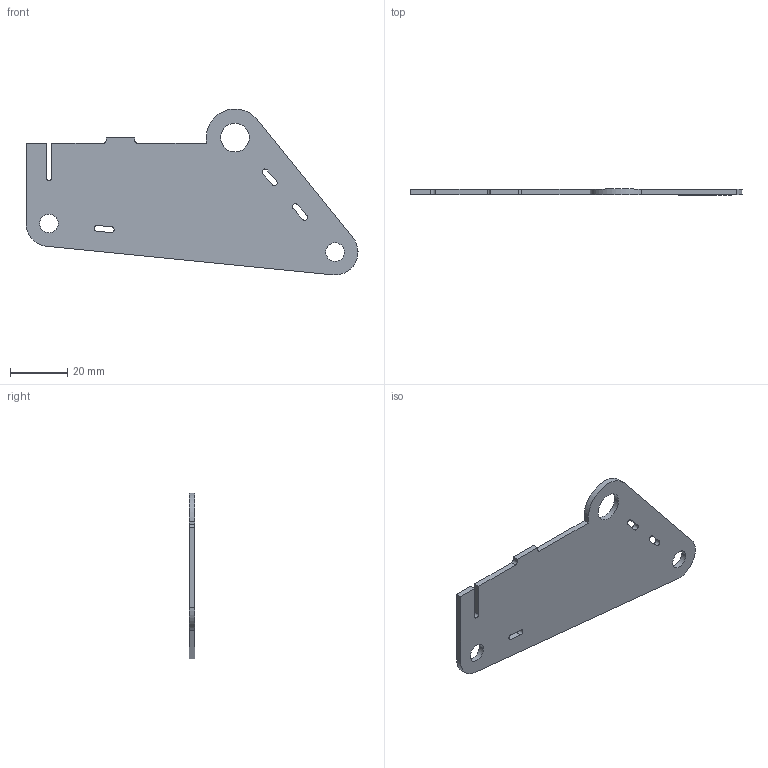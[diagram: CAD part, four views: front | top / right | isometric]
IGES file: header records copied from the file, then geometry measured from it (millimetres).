
Start section: START RECORD GO HERE.
Global section: file name: FR_11001_2 (Frame Throttle).igs; native system: IBM CATIA IGES - CATIA Version 5 Release 19 ; preprocessor: CATIA Version 5 Release 19 ; author: jacqu; organization: ASUS-TUF-JACQUE; date: 20200226.091822; units: millimetre
Bounding box: 116 x 2 x 57.96 mm (x, y, z)
Surface area: 9406.1 mm2 (no closed solid volume)
Topology: 0 solids, 0 shells, 38 faces, 216 edges, 216 vertices
Faces by surface type: plane 20, revolution 18
